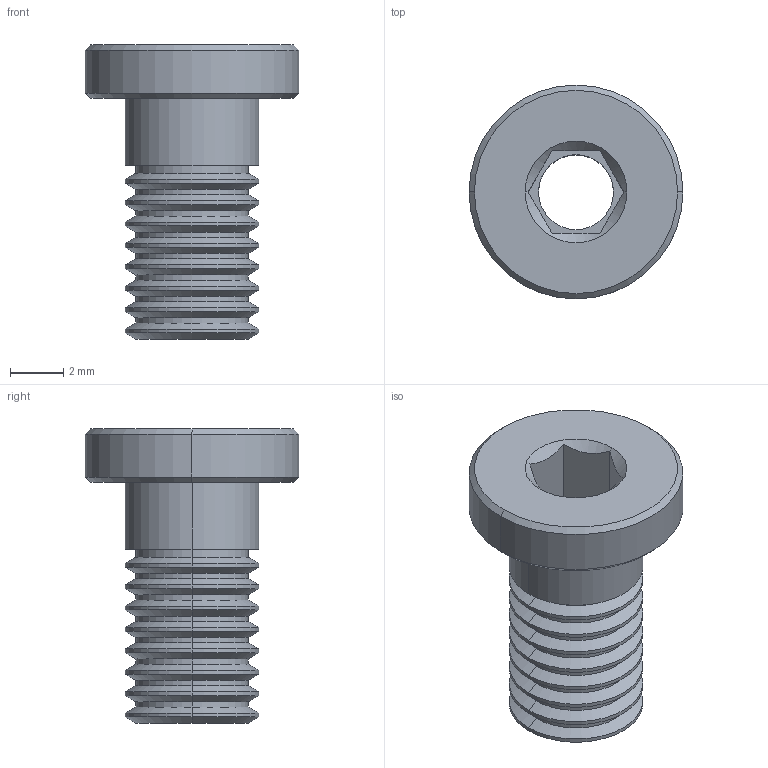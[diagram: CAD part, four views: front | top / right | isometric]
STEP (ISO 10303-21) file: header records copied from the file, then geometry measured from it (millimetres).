
FILE_DESCRIPTION (( 'STEP AP214' ), '1' );
FILE_NAME ('VM09-M5.STEP', '2019-11-14T02:18:35', ( '微软用户' ), ( '微软中国' ), 'SwSTEP 2.0', 'SolidWorks 2016', '' );
FILE_SCHEMA (( 'AUTOMOTIVE_DESIGN' ));
Length unit declared in the file: millimetre
Products named in the file (1): VM09-M5
Bounding box: 8 x 8 x 11 mm (x, y, z)
Volume: 178.7 mm3; surface area: 421.4 mm2
Topology: 1 solids, 1 shells, 87 faces, 178 edges, 96 vertices
Faces by surface type: cone 38, cylinder 38, plane 11
Entity records: 2304 total; most frequent: DIRECTION 432, CARTESIAN_POINT 408, ORIENTED_EDGE 356, EDGE_CURVE 178, AXIS2_PLACEMENT_3D 172, VERTEX_POINT 96, EDGE_LOOP 92, VECTOR 88
